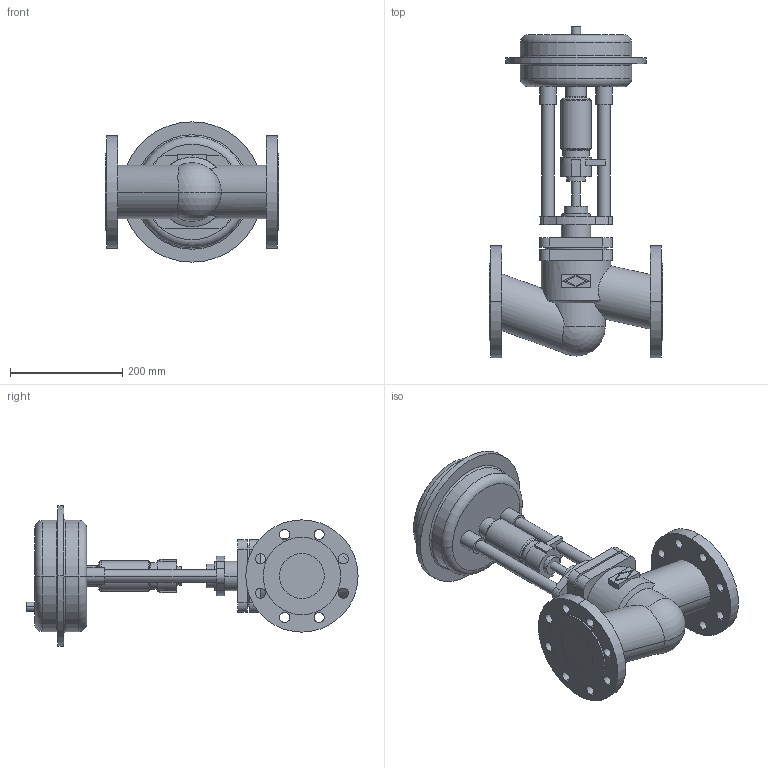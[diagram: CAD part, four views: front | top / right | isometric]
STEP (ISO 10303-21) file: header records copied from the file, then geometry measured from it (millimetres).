
FILE_DESCRIPTION(('OneSpaceDesigner STEP Export'),'2;1');
FILE_NAME('c000001408.stp','2005-02-14T14:05:10',(''),(''),'OneSpace Designer STEP processor (Jan. 2003) for AP203(Solid Model)','OneSpace Designer 12.01D 09-Jul-2004 (C) CoCreate Software GmbH','');
FILE_SCHEMA(('CONFIG_CONTROL_DESIGN'));
Length unit declared in the file: millimetre
Products named in the file (2): 1; 2
Bounding box: 310 x 591.5 x 250 mm (x, y, z)
Volume: 8420676.1 mm3; surface area: 542770.1 mm2
Topology: 2 solids, 2 shells, 197 faces, 482 edges, 314 vertices
Faces by surface type: cylinder 100, plane 73, torus 16, cone 6, sphere 2
Entity records: 5581 total; most frequent: CARTESIAN_POINT 1128, ORIENTED_EDGE 960, DIRECTION 791, EDGE_CURVE 480, VERTEX_POINT 314, AXIS2_PLACEMENT_3D 288, EDGE_LOOP 256, VECTOR 215
